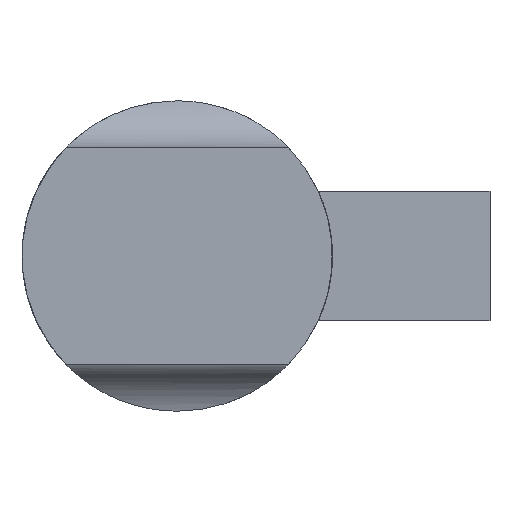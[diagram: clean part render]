
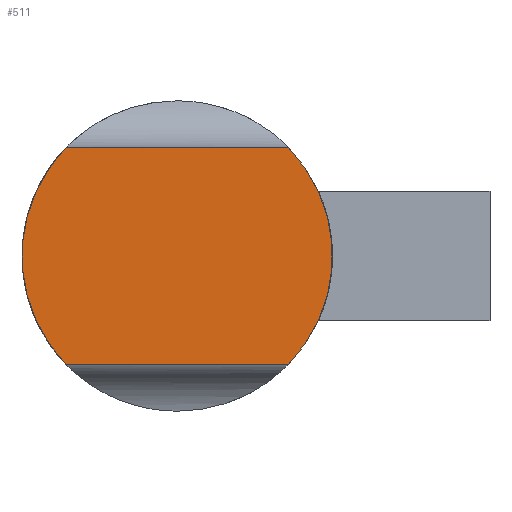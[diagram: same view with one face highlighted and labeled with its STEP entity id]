
A CAD part, front view. The second image highlights one B-rep face of the part: STEP entity #511.
In plain terms, the highlighted planar face has unit normal (0, -1, 0).
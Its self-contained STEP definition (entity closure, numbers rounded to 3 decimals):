
#15 = AXIS2_PLACEMENT_3D ( 'NONE', #586, #581, #580 ) ;
#30 = AXIS2_PLACEMENT_3D ( 'NONE', #675, #625, #729 ) ;
#38 = AXIS2_PLACEMENT_3D ( 'NONE', #469, #402, #403 ) ;
#53 = EDGE_CURVE ( 'NONE', #282, #318, #342, .T. ) ;
#78 = EDGE_CURVE ( 'NONE', #282, #332, #266, .T. ) ;
#81 = EDGE_CURVE ( 'NONE', #164, #332, #306, .T. ) ;
#95 = EDGE_CURVE ( 'NONE', #164, #318, #305, .T. ) ;
#161 = EDGE_LOOP ( 'NONE', ( #316, #324, #259, #345 ) ) ;
#164 = VERTEX_POINT ( 'NONE', #709 ) ;
#222 = VECTOR ( 'NONE', #535, 1000. ) ;
#250 = FACE_OUTER_BOUND ( 'NONE', #161, .T. ) ;
#259 = ORIENTED_EDGE ( 'NONE', *, *, #53, .F. ) ;
#266 = LINE ( 'NONE', #530, #222 ) ;
#282 = VERTEX_POINT ( 'NONE', #719 ) ;
#305 = LINE ( 'NONE', #735, #334 ) ;
#306 = CIRCLE ( 'NONE', #30, 9.95 ) ;
#316 = ORIENTED_EDGE ( 'NONE', *, *, #81, .F. ) ;
#318 = VERTEX_POINT ( 'NONE', #693 ) ;
#324 = ORIENTED_EDGE ( 'NONE', *, *, #95, .T. ) ;
#332 = VERTEX_POINT ( 'NONE', #723 ) ;
#334 = VECTOR ( 'NONE', #630, 1000. ) ;
#342 = CIRCLE ( 'NONE', #38, 9.95 ) ;
#345 = ORIENTED_EDGE ( 'NONE', *, *, #78, .T. ) ;
#402 = DIRECTION ( 'NONE',  ( 0., 1., 0. ) ) ;
#403 = DIRECTION ( 'NONE',  ( 0., 0., 1. ) ) ;
#469 = CARTESIAN_POINT ( 'NONE',  ( 0., -16., 0. ) ) ;
#511 = ADVANCED_FACE ( 'NONE', ( #250 ), #584, .F. ) ;
#530 = CARTESIAN_POINT ( 'NONE',  ( -10., -16., 6.95 ) ) ;
#535 = DIRECTION ( 'NONE',  ( -1., 0., 0. ) ) ;
#580 = DIRECTION ( 'NONE',  ( 0., 0., 1. ) ) ;
#581 = DIRECTION ( 'NONE',  ( 0., 1., 0. ) ) ;
#584 = PLANE ( 'NONE',  #15 ) ;
#586 = CARTESIAN_POINT ( 'NONE',  ( 0., -16., 0. ) ) ;
#625 = DIRECTION ( 'NONE',  ( 0., 1., 0. ) ) ;
#630 = DIRECTION ( 'NONE',  ( 1., 0., 0. ) ) ;
#675 = CARTESIAN_POINT ( 'NONE',  ( 0., -16., 0. ) ) ;
#693 = CARTESIAN_POINT ( 'NONE',  ( 7.12, -16., -6.95 ) ) ;
#709 = CARTESIAN_POINT ( 'NONE',  ( -7.12, -16., -6.95 ) ) ;
#719 = CARTESIAN_POINT ( 'NONE',  ( 7.12, -16., 6.95 ) ) ;
#723 = CARTESIAN_POINT ( 'NONE',  ( -7.12, -16., 6.95 ) ) ;
#729 = DIRECTION ( 'NONE',  ( 0., 0., 1. ) ) ;
#735 = CARTESIAN_POINT ( 'NONE',  ( -10., -16., -6.95 ) ) ;
